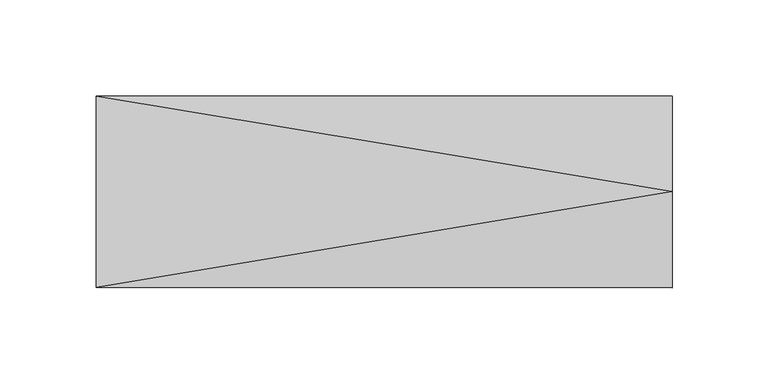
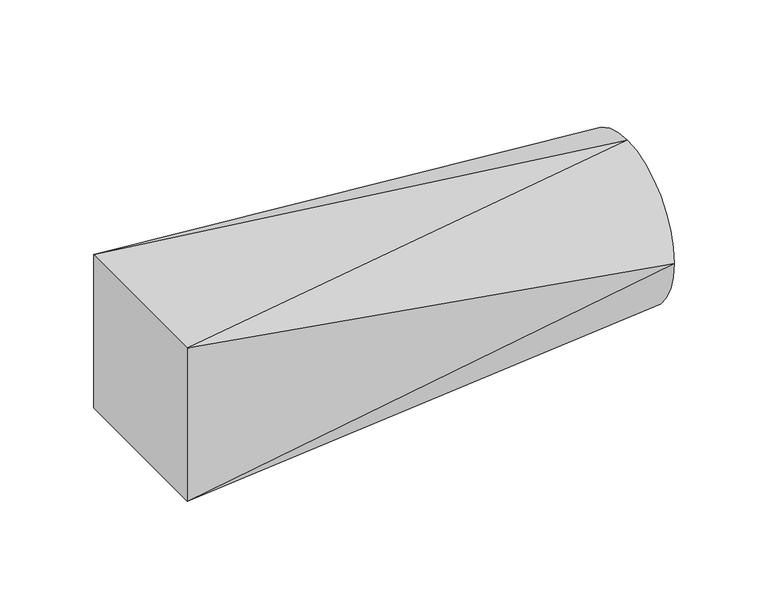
"""IFC4 building model written with IfcOpenShell, lengths in millimetres: duct fitting geometry, Переходник с круглого на прямоугольное сечение - Длина : Стандартное."""

from ifc_helpers import new_model, si_unit, frame, origin, place, context, project, spatial, circle_curve, source, transform, mapped, element, save
from ifc_brep_helpers import plane_surface, spline_surface, advanced_brep


def duct_fitting_a8517f71(model_context):
    return source(origin(), model_context, "Body", "AdvancedBrep", [
        advanced_brep(
        [(300.0, 0.0, 50.0), (300.0, -50.0, 0.0), (300.0, 0.0, -50.0), (300.0, 50.0, 0.0), (0.0, -50.0, 50.0), (0.0, 50.0, 50.0), (0.0, 50.0, -50.0), (0.0, -50.0, -50.0)],
        [
            (0, 1, circle_curve(frame((300.0, 0.0, 0.0), z_axis=(1.0, 0.0, 0.0), x_axis=(0.0, 1.0, 0.0)), 50.0)),
            (1, 2, circle_curve(frame((300.0, 0.0, 0.0), z_axis=(1.0, 0.0, 0.0), x_axis=(0.0, 1.0, 0.0)), 50.0)),
            (2, 3, circle_curve(frame((300.0, 0.0, 0.0), z_axis=(1.0, 0.0, 0.0), x_axis=(0.0, 1.0, 0.0)), 50.0)),
            (3, 0, circle_curve(frame((300.0, 0.0, 0.0), z_axis=(1.0, 0.0, 0.0), x_axis=(0.0, 1.0, 0.0)), 50.0)),
            (4, 5),
            (5, 6),
            (6, 7),
            (7, 4),
            (0, 4),
            (4, 1),
            (7, 1),
            (7, 2),
            (6, 2),
            (6, 3),
            (5, 3),
            (5, 0),
        ],
        [
            plane_surface(frame((300.0, 0.0, 0.0), z_axis=(1.0, 0.0, 0.0), x_axis=(0.0, 0.0, -1.0))),
            plane_surface(frame((0.0, 0.0, 0.0), z_axis=(-1.0, 0.0, 0.0), x_axis=(0.0, 0.0, -1.0))),
            spline_surface(2, 1, [[(0.0, -50.0, 50.0), (300.0, 0.0, 50.0)], [(0.0, -50.0, 50.0), (300.0, -50.0, 50.0)], [(0.0, -50.0, 50.0), (300.0, -50.0, 0.0)]], [3, 3], [2, 2], [0.0, 1.0], [0.0, 1.0], weights=[[1.0, 1.0], [0.7071067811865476, 0.7071067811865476], [1.0, 1.0]]),
            plane_surface(frame((0.0, -50.0, 0.0), z_axis=(0.0, -1.0, 0.0), x_axis=(0.0, 0.0, -1.0))),
            spline_surface(2, 1, [[(0.0, -50.0, -50.0), (300.0, -50.0, 0.0)], [(0.0, -50.0, -50.0), (300.0, -50.0, -50.0)], [(0.0, -50.0, -50.0), (300.0, 0.0, -50.0)]], [3, 3], [2, 2], [0.0, 1.0], [0.0, 1.0], weights=[[1.0, 1.0], [0.7071067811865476, 0.7071067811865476], [1.0, 1.0]]),
            plane_surface(frame((0.0, 0.0, -50.0), z_axis=(0.0, 0.0, -1.0), x_axis=(0.0, 1.0, 0.0))),
            spline_surface(2, 1, [[(0.0, 50.0, -50.0), (300.0, 0.0, -50.0)], [(0.0, 50.0, -50.0), (300.0, 50.0, -50.0)], [(0.0, 50.0, -50.0), (300.0, 50.0, 0.0)]], [3, 3], [2, 2], [0.0, 1.0], [0.0, 1.0], weights=[[1.0, 1.0], [0.7071067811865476, 0.7071067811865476], [1.0, 1.0]]),
            plane_surface(frame((0.0, 50.0, 0.0), z_axis=(0.0, 1.0, 0.0), x_axis=(0.0, 0.0, 1.0))),
            spline_surface(2, 1, [[(0.0, 50.0, 50.0), (300.0, 50.0, 0.0)], [(0.0, 50.0, 50.0), (300.0, 50.0, 50.0)], [(0.0, 50.0, 50.0), (300.0, 0.0, 50.0)]], [3, 3], [2, 2], [0.0, 1.0], [0.0, 1.0], weights=[[1.0, 1.0], [0.7071067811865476, 0.7071067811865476], [1.0, 1.0]]),
            plane_surface(frame((0.0, 0.0, 50.0), z_axis=(0.0, 0.0, 1.0), x_axis=(0.0, -1.0, 0.0))),
        ],
        [
            (0, [[1, 2, 3, 4]]),
            (1, [[5, 6, 7, 8]]),
            (2, [[-1, 9, 10]]),
            (3, [[-8, 11, -10]]),
            (4, [[-2, -11, 12]]),
            (5, [[-7, 13, -12]]),
            (6, [[-3, -13, 14]]),
            (7, [[-6, 15, -14]]),
            (8, [[-4, -15, 16]]),
            (9, [[-5, -9, -16]]),
        ],
    ),
    ])


if __name__ == "__main__":
    model = new_model("IFC4")
    model_context = context("Model", 3, world=origin())
    ifc_project = project(units=[si_unit("LENGTHUNIT", "METRE", prefix="MILLI")], contexts=[model_context])
    site = spatial("IfcSite", under=ifc_project)
    building = spatial("IfcBuilding", under=site)
    placement = place(None, origin())
    duct_fitting_shape = duct_fitting_a8517f71(model_context)
    element("IfcDuctFitting", 1, ObjectType="Переходник с круглого на прямоугольное сечение - Длина : Стандартное", at=placement, inside=building, context=model_context, shape_type="MappedRepresentation", body=[
        mapped(duct_fitting_shape, transform((0.0, 0.0, 0.0), x_axis=(1.0, 0.0, 0.0), y_axis=(0.0, 1.0, 0.0), z_axis=(0.0, 0.0, 1.0))),
    ])
    save(model, "model.ifc")
